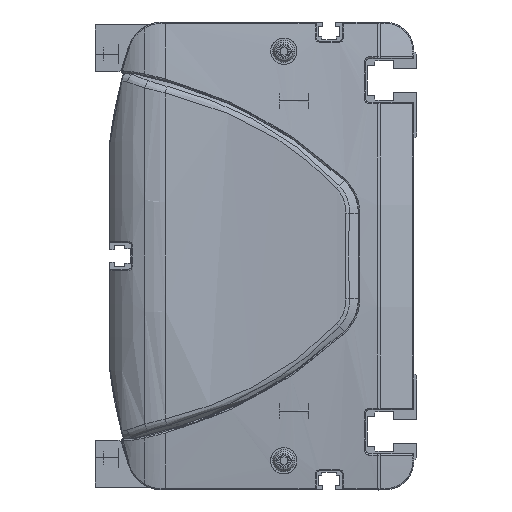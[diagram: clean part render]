
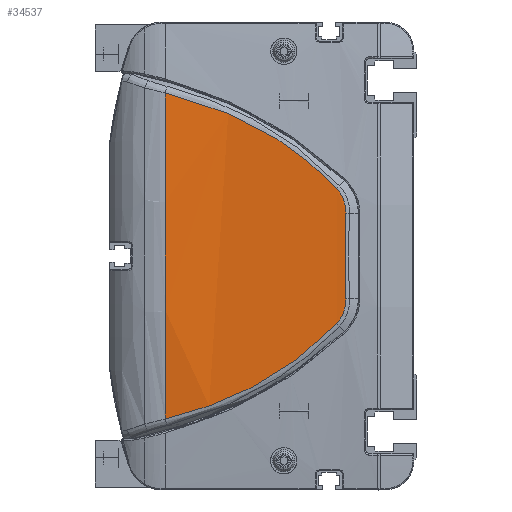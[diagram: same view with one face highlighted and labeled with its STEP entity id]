
A CAD part, left-side view. The second image highlights one B-rep face of the part: STEP entity #34537.
In plain terms, the highlighted cylindrical face has radius 600 mm (diameter 1200 mm), a partial arc.
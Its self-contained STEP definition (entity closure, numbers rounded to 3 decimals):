
#11564=CARTESIAN_POINT('',(-12.406,86.,
55.736));
#11565=CARTESIAN_POINT('',(-12.529,80.495,
54.41));
#11566=CARTESIAN_POINT('',(-12.828,69.636,
51.114));
#11567=CARTESIAN_POINT('',(-13.389,54.079,
44.179));
#11568=CARTESIAN_POINT('',(-14.01,39.709,
34.979));
#11569=CARTESIAN_POINT('',(-14.395,31.353,
27.243));
#11570=CARTESIAN_POINT('',(-14.555,27.451,
23.113));
#11572=CARTESIAN_POINT('',(-14.555,27.451,
23.113));
#11573=CARTESIAN_POINT('',(-14.641,25.336,
20.875));
#11574=CARTESIAN_POINT('',(-14.745,24.202,
17.745));
#11575=CARTESIAN_POINT('',(-14.821,24.351,
14.67));
#11577=CARTESIAN_POINT('',(-14.821,24.351,
14.67));
#11578=CARTESIAN_POINT('',(-14.9,24.51,
11.413));
#11579=CARTESIAN_POINT('',(-15.007,24.721,
4.895));
#11580=CARTESIAN_POINT('',(-15.007,24.721,
-4.895));
#11581=CARTESIAN_POINT('',(-14.9,24.51,
-11.413));
#11582=CARTESIAN_POINT('',(-14.821,24.351,
-14.67));
#11584=CARTESIAN_POINT('',(-14.821,24.351,
-14.67));
#11585=CARTESIAN_POINT('',(-14.745,24.202,
-17.745));
#11586=CARTESIAN_POINT('',(-14.641,25.337,
-20.876));
#11587=CARTESIAN_POINT('',(-14.555,27.451,
-23.113));
#11589=CARTESIAN_POINT('',(-14.555,27.451,
-23.113));
#11590=CARTESIAN_POINT('',(-14.395,31.353,
-27.243));
#11591=CARTESIAN_POINT('',(-14.01,39.709,
-34.979));
#11592=CARTESIAN_POINT('',(-13.389,54.079,
-44.179));
#11593=CARTESIAN_POINT('',(-12.828,69.636,
-51.114));
#11594=CARTESIAN_POINT('',(-12.529,80.495,
-54.41));
#11595=CARTESIAN_POINT('',(-12.406,86.,
-55.736));
#11597=CARTESIAN_POINT('',(585.,86.,0.));
#11598=DIRECTION('',(0.,1.,0.));
#11599=DIRECTION('',(-0.996,0.,-0.093));
#11600=AXIS2_PLACEMENT_3D('',#11597,#11598,#11599);
#11613=CARTESIAN_POINT('',(-12.406,86.,
55.736));
#15193=VERTEX_POINT('',#11613);
#15194=CARTESIAN_POINT('',(-12.406,86.,
-55.736));
#15195=VERTEX_POINT('',#15194);
#15245=VERTEX_POINT('',#11570);
#15246=VERTEX_POINT('',#11575);
#15247=VERTEX_POINT('',#11582);
#15248=VERTEX_POINT('',#11587);
#34519=CARTESIAN_POINT('',(585.,87.45,0.));
#34520=DIRECTION('',(0.,-1.,0.));
#34521=DIRECTION('',(0.,0.,-1.));
#34522=AXIS2_PLACEMENT_3D('',#34519,#34520,#34521);
#34523=CYLINDRICAL_SURFACE('',#34522,600.);
#34525=ORIENTED_EDGE('',*,*,#34524,.T.);
#34527=ORIENTED_EDGE('',*,*,#34526,.T.);
#34528=ORIENTED_EDGE('',*,*,#34509,.T.);
#34530=ORIENTED_EDGE('',*,*,#34529,.T.);
#34532=ORIENTED_EDGE('',*,*,#34531,.T.);
#34534=ORIENTED_EDGE('',*,*,#34533,.T.);
#34535=EDGE_LOOP('',(#34525,#34527,#34528,#34530,#34532,#34534));
#34536=FACE_OUTER_BOUND('',#34535,.F.);
#34537=ADVANCED_FACE('',(#34536),#34523,.T.);
#11571=B_SPLINE_CURVE_WITH_KNOTS('',3,(#11564,#11565,#11566,#11567,#11568,
#11569,#11570),.UNSPECIFIED.,.F.,.F.,(4,1,1,1,4),(0.,0.25,0.5,0.75,
1.),.UNSPECIFIED.);
#11576=B_SPLINE_CURVE_WITH_KNOTS('',3,(#11572,#11573,#11574,#11575),
.UNSPECIFIED.,.F.,.F.,(4,4),(0.,1.),.UNSPECIFIED.);
#11583=B_SPLINE_CURVE_WITH_KNOTS('',3,(#11577,#11578,#11579,#11580,#11581,
#11582),.UNSPECIFIED.,.F.,.F.,(4,1,1,4),(0.,0.333,
0.667,1.),.UNSPECIFIED.);
#11588=B_SPLINE_CURVE_WITH_KNOTS('',3,(#11584,#11585,#11586,#11587),
.UNSPECIFIED.,.F.,.F.,(4,4),(0.,1.),.UNSPECIFIED.);
#11596=B_SPLINE_CURVE_WITH_KNOTS('',3,(#11589,#11590,#11591,#11592,#11593,
#11594,#11595),.UNSPECIFIED.,.F.,.F.,(4,1,1,1,4),(0.,0.25,0.5,0.75,
1.),.UNSPECIFIED.);
#11601=CIRCLE('',#11600,600.);
#34509=EDGE_CURVE('',#15246,#15247,#11583,.T.);
#34524=EDGE_CURVE('',#15193,#15245,#11571,.T.);
#34526=EDGE_CURVE('',#15245,#15246,#11576,.T.);
#34529=EDGE_CURVE('',#15247,#15248,#11588,.T.);
#34531=EDGE_CURVE('',#15248,#15195,#11596,.T.);
#34533=EDGE_CURVE('',#15195,#15193,#11601,.T.);
